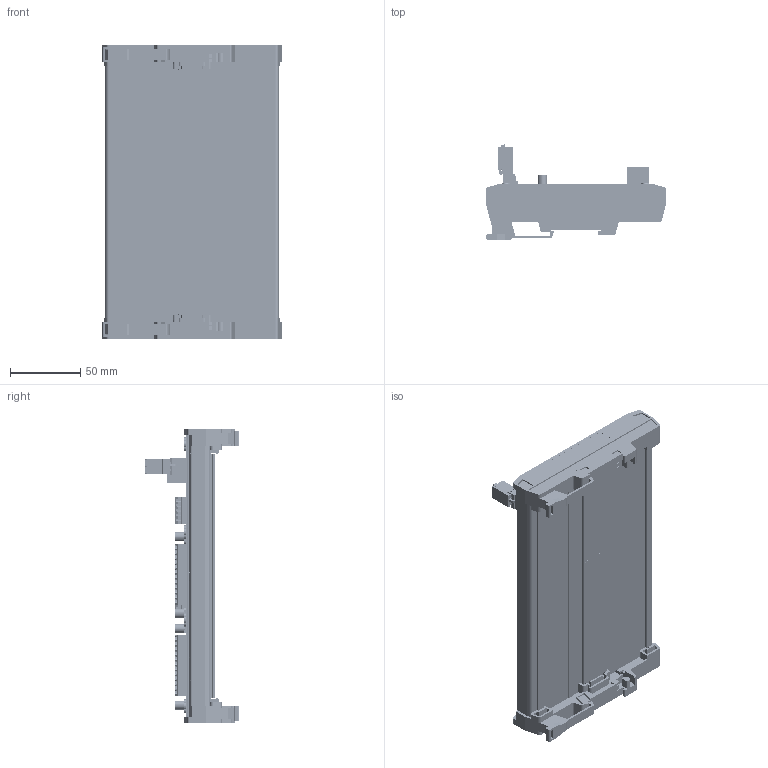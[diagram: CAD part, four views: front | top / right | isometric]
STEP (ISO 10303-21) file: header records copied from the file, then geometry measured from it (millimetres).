
FILE_DESCRIPTION(/* description */ (''),/* implementation_level */ '2;1');
FILE_NAME(/* name */ 'S:\Projects\12IN-12OUT-CAN-MODENET, AX028010, Proj_21021\UNIT ASSEMBLY\RELEASED\P3\AX028010.stp',/* time_stamp */ '2024-12-05T21:35:05-05:00',/* author */ ('AutoDeskUser'),/* organization */ (''),/* preprocessor_version */ 'ST-DEVELOPER v18.1',/* originating_system */ 'Autodesk Inventor 2021',/* authorisation */ '');
FILE_SCHEMA (('AUTOMOTIVE_DESIGN { 1 0 10303 214 3 1 1 }'));
Products named in the file (1): FG-AX028010_Shrinkwrap_2
Bounding box: 127.8 x 67.47 x 210 mm (x, y, z)
Volume: 233101 mm3; surface area: 209154 mm2
Topology: 22 solids, 504 shells, 31074 faces, 81993 edges, 53210 vertices
Faces by surface type: plane 19667, cylinder 8393, bspline 1554, torus 636, sphere 572, cone 252
Full cylindrical faces by diameter (mm): 0.434 x3, 0.508 x4, 1.016 x13, 1.025 x636, 1.1 x318, 1.15 x696, 1.4 x4, 2.8 x3, 3.1 x2, 3.252 x2, 4 x9, 6.462 x12
Entity records: 1058277 total; most frequent: CARTESIAN_POINT 247438, ORIENTED_EDGE 162948, DIRECTION 162545, EDGE_CURVE 81474, LINE 55143, VECTOR 55143, AXIS2_PLACEMENT_3D 53701, VERTEX_POINT 53210
